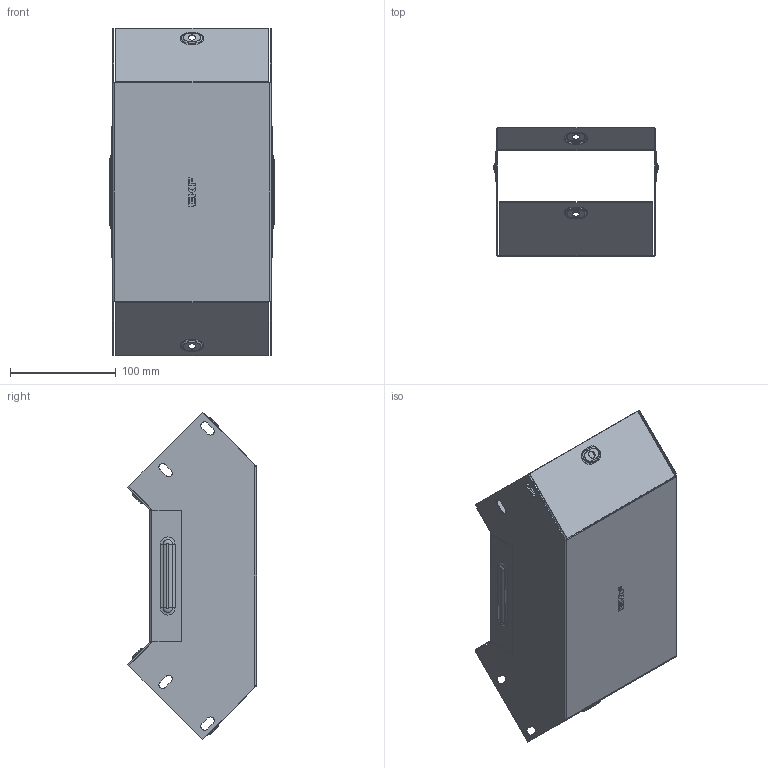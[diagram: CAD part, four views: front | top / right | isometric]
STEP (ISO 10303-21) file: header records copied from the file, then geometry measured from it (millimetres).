
FILE_DESCRIPTION (( 'STEP AP214' ), '1' );
FILE_NAME ('vi90100150_捘.STEP', '2019-06-10T09:22:39', ( '砐錪賧瘔蠈錪 Windows' ), ( '' ), 'SwSTEP 2.0', 'SolidWorks 2018', '' );
FILE_SCHEMA (( 'AUTOMOTIVE_DESIGN' ));
Length unit declared in the file: millimetre
Products named in the file (1): vi90100150_捘
Bounding box: 155.6 x 122.01 x 309.97 mm (x, y, z)
Volume: 111344.5 mm3; surface area: 280617.7 mm2
Topology: 2 solids, 2 shells, 436 faces, 1116 edges, 712 vertices
Faces by surface type: plane 230, cylinder 124, torus 64, bspline 18
Entity records: 14120 total; most frequent: CARTESIAN_POINT 3284, DIRECTION 2262, ORIENTED_EDGE 2232, EDGE_CURVE 1116, AXIS2_PLACEMENT_3D 763, LINE 736, VECTOR 736, VERTEX_POINT 712
